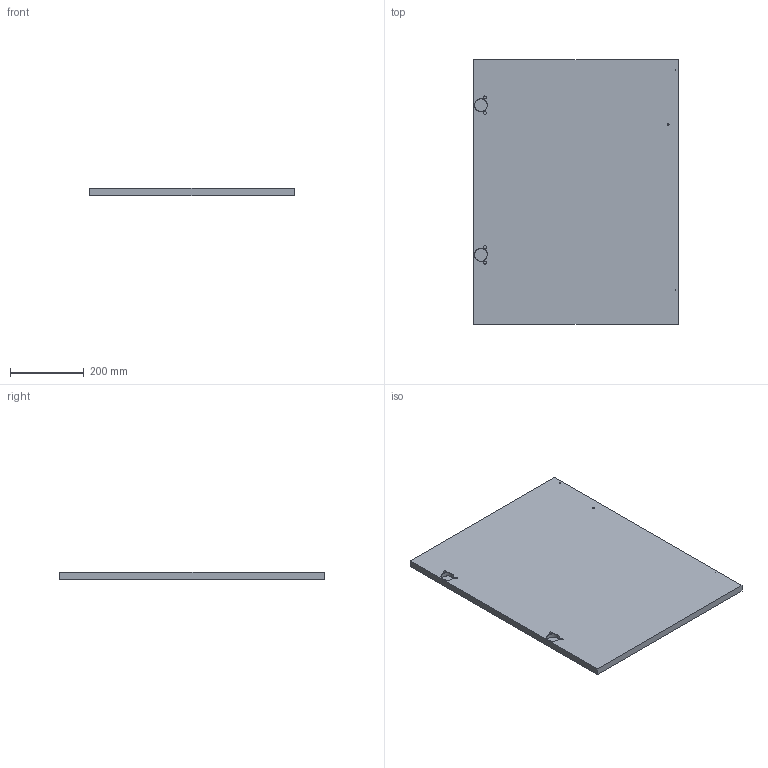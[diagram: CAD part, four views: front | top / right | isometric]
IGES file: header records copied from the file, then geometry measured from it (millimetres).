
Start section:  PTC IGES file: c5_right_door.igs
Global section: file name: c5_right_door.igs; native system: Creo Elements/Pro by Parametric Technology Corporation; preprocessor: 2013330; author: RRenderos; organization: Unknown; date: 20141223.131136; units: inch
Bounding box: 556.26 x 719.12 x 19.05 mm (x, y, z)
Surface area: 852433.2 mm2 (no closed solid volume)
Topology: 0 solids, 0 shells, 35 faces, 140 edges, 140 vertices
Faces by surface type: bspline 35
